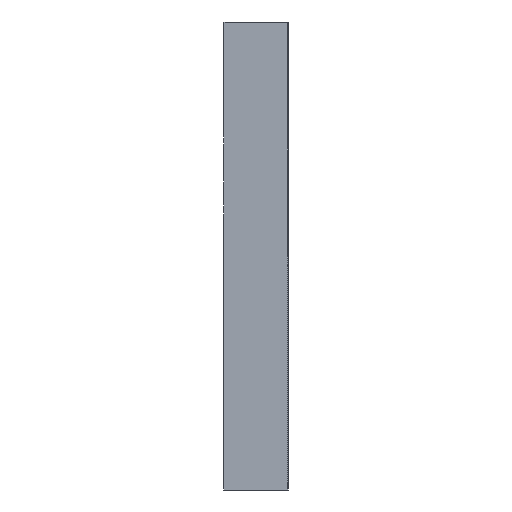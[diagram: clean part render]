
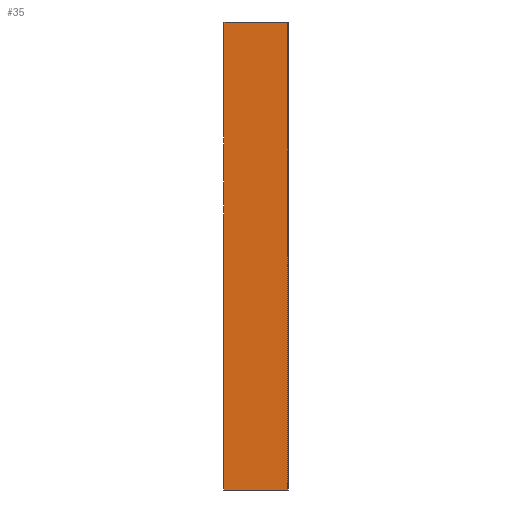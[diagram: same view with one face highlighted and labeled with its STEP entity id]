
A CAD part, left-side view. The second image highlights one B-rep face of the part: STEP entity #35.
In plain terms, the highlighted planar face has unit normal (-1, 0, 0).
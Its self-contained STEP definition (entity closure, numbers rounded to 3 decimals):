
#35 = ADVANCED_FACE('',(#36),#50,.F.);
#36 = FACE_BOUND('',#37,.F.);
#37 = EDGE_LOOP('',(#38,#73,#101,#129));
#38 = ORIENTED_EDGE('',*,*,#39,.F.);
#39 = EDGE_CURVE('',#40,#42,#44,.T.);
#40 = VERTEX_POINT('',#41);
#41 = CARTESIAN_POINT('',(-13.,-1.2,-10.2));
#42 = VERTEX_POINT('',#43);
#43 = CARTESIAN_POINT('',(-13.,-1.2,1.5));
#44 = SURFACE_CURVE('',#45,(#49,#61),.PCURVE_S1.);
#45 = LINE('',#46,#47);
#46 = CARTESIAN_POINT('',(-13.,-1.2,-10.2));
#47 = VECTOR('',#48,1.);
#48 = DIRECTION('',(0.,0.,1.));
#49 = PCURVE('',#50,#55);
#50 = PLANE('',#51);
#51 = AXIS2_PLACEMENT_3D('',#52,#53,#54);
#52 = CARTESIAN_POINT('',(-13.,-1.2,-10.2));
#53 = DIRECTION('',(1.,0.,0.));
#54 = DIRECTION('',(0.,0.,1.));
#55 = DEFINITIONAL_REPRESENTATION('',(#56),#60);
#56 = LINE('',#57,#58);
#57 = CARTESIAN_POINT('',(0.,0.));
#58 = VECTOR('',#59,1.);
#59 = DIRECTION('',(1.,0.));
#60 = ( GEOMETRIC_REPRESENTATION_CONTEXT(2) 
PARAMETRIC_REPRESENTATION_CONTEXT() REPRESENTATION_CONTEXT('2D SPACE',''
  ) );
#61 = PCURVE('',#62,#67);
#62 = PLANE('',#63);
#63 = AXIS2_PLACEMENT_3D('',#64,#65,#66);
#64 = CARTESIAN_POINT('',(-13.,-1.2,-10.2));
#65 = DIRECTION('',(0.,1.,0.));
#66 = DIRECTION('',(0.,-0.,1.));
#67 = DEFINITIONAL_REPRESENTATION('',(#68),#72);
#68 = LINE('',#69,#70);
#69 = CARTESIAN_POINT('',(0.,0.));
#70 = VECTOR('',#71,1.);
#71 = DIRECTION('',(1.,0.));
#72 = ( GEOMETRIC_REPRESENTATION_CONTEXT(2) 
PARAMETRIC_REPRESENTATION_CONTEXT() REPRESENTATION_CONTEXT('2D SPACE',''
  ) );
#73 = ORIENTED_EDGE('',*,*,#74,.T.);
#74 = EDGE_CURVE('',#40,#75,#77,.T.);
#75 = VERTEX_POINT('',#76);
#76 = CARTESIAN_POINT('',(-13.,0.4,-10.2));
#77 = SURFACE_CURVE('',#78,(#82,#89),.PCURVE_S1.);
#78 = LINE('',#79,#80);
#79 = CARTESIAN_POINT('',(-13.,-1.2,-10.2));
#80 = VECTOR('',#81,1.);
#81 = DIRECTION('',(0.,1.,0.));
#82 = PCURVE('',#50,#83);
#83 = DEFINITIONAL_REPRESENTATION('',(#84),#88);
#84 = LINE('',#85,#86);
#85 = CARTESIAN_POINT('',(0.,0.));
#86 = VECTOR('',#87,1.);
#87 = DIRECTION('',(0.,-1.));
#88 = ( GEOMETRIC_REPRESENTATION_CONTEXT(2) 
PARAMETRIC_REPRESENTATION_CONTEXT() REPRESENTATION_CONTEXT('2D SPACE',''
  ) );
#89 = PCURVE('',#90,#95);
#90 = PLANE('',#91);
#91 = AXIS2_PLACEMENT_3D('',#92,#93,#94);
#92 = CARTESIAN_POINT('',(-13.,-1.2,-10.2));
#93 = DIRECTION('',(0.,0.,1.));
#94 = DIRECTION('',(1.,0.,-0.));
#95 = DEFINITIONAL_REPRESENTATION('',(#96),#100);
#96 = LINE('',#97,#98);
#97 = CARTESIAN_POINT('',(0.,0.));
#98 = VECTOR('',#99,1.);
#99 = DIRECTION('',(0.,1.));
#100 = ( GEOMETRIC_REPRESENTATION_CONTEXT(2) 
PARAMETRIC_REPRESENTATION_CONTEXT() REPRESENTATION_CONTEXT('2D SPACE',''
  ) );
#101 = ORIENTED_EDGE('',*,*,#102,.T.);
#102 = EDGE_CURVE('',#75,#103,#105,.T.);
#103 = VERTEX_POINT('',#104);
#104 = CARTESIAN_POINT('',(-13.,0.4,1.5));
#105 = SURFACE_CURVE('',#106,(#110,#117),.PCURVE_S1.);
#106 = LINE('',#107,#108);
#107 = CARTESIAN_POINT('',(-13.,0.4,-10.2));
#108 = VECTOR('',#109,1.);
#109 = DIRECTION('',(0.,0.,1.));
#110 = PCURVE('',#50,#111);
#111 = DEFINITIONAL_REPRESENTATION('',(#112),#116);
#112 = LINE('',#113,#114);
#113 = CARTESIAN_POINT('',(0.,-1.6));
#114 = VECTOR('',#115,1.);
#115 = DIRECTION('',(1.,0.));
#116 = ( GEOMETRIC_REPRESENTATION_CONTEXT(2) 
PARAMETRIC_REPRESENTATION_CONTEXT() REPRESENTATION_CONTEXT('2D SPACE',''
  ) );
#117 = PCURVE('',#118,#123);
#118 = PLANE('',#119);
#119 = AXIS2_PLACEMENT_3D('',#120,#121,#122);
#120 = CARTESIAN_POINT('',(-13.,0.4,-10.2));
#121 = DIRECTION('',(0.,1.,0.));
#122 = DIRECTION('',(0.,-0.,1.));
#123 = DEFINITIONAL_REPRESENTATION('',(#124),#128);
#124 = LINE('',#125,#126);
#125 = CARTESIAN_POINT('',(0.,0.));
#126 = VECTOR('',#127,1.);
#127 = DIRECTION('',(1.,0.));
#128 = ( GEOMETRIC_REPRESENTATION_CONTEXT(2) 
PARAMETRIC_REPRESENTATION_CONTEXT() REPRESENTATION_CONTEXT('2D SPACE',''
  ) );
#129 = ORIENTED_EDGE('',*,*,#130,.F.);
#130 = EDGE_CURVE('',#42,#103,#131,.T.);
#131 = SURFACE_CURVE('',#132,(#136,#143),.PCURVE_S1.);
#132 = LINE('',#133,#134);
#133 = CARTESIAN_POINT('',(-13.,-1.2,1.5));
#134 = VECTOR('',#135,1.);
#135 = DIRECTION('',(0.,1.,0.));
#136 = PCURVE('',#50,#137);
#137 = DEFINITIONAL_REPRESENTATION('',(#138),#142);
#138 = LINE('',#139,#140);
#139 = CARTESIAN_POINT('',(11.7,0.));
#140 = VECTOR('',#141,1.);
#141 = DIRECTION('',(0.,-1.));
#142 = ( GEOMETRIC_REPRESENTATION_CONTEXT(2) 
PARAMETRIC_REPRESENTATION_CONTEXT() REPRESENTATION_CONTEXT('2D SPACE',''
  ) );
#143 = PCURVE('',#144,#149);
#144 = PLANE('',#145);
#145 = AXIS2_PLACEMENT_3D('',#146,#147,#148);
#146 = CARTESIAN_POINT('',(-13.,-1.2,1.5));
#147 = DIRECTION('',(0.,0.,1.));
#148 = DIRECTION('',(1.,0.,-0.));
#149 = DEFINITIONAL_REPRESENTATION('',(#150),#154);
#150 = LINE('',#151,#152);
#151 = CARTESIAN_POINT('',(0.,0.));
#152 = VECTOR('',#153,1.);
#153 = DIRECTION('',(0.,1.));
#154 = ( GEOMETRIC_REPRESENTATION_CONTEXT(2) 
PARAMETRIC_REPRESENTATION_CONTEXT() REPRESENTATION_CONTEXT('2D SPACE',''
  ) );
